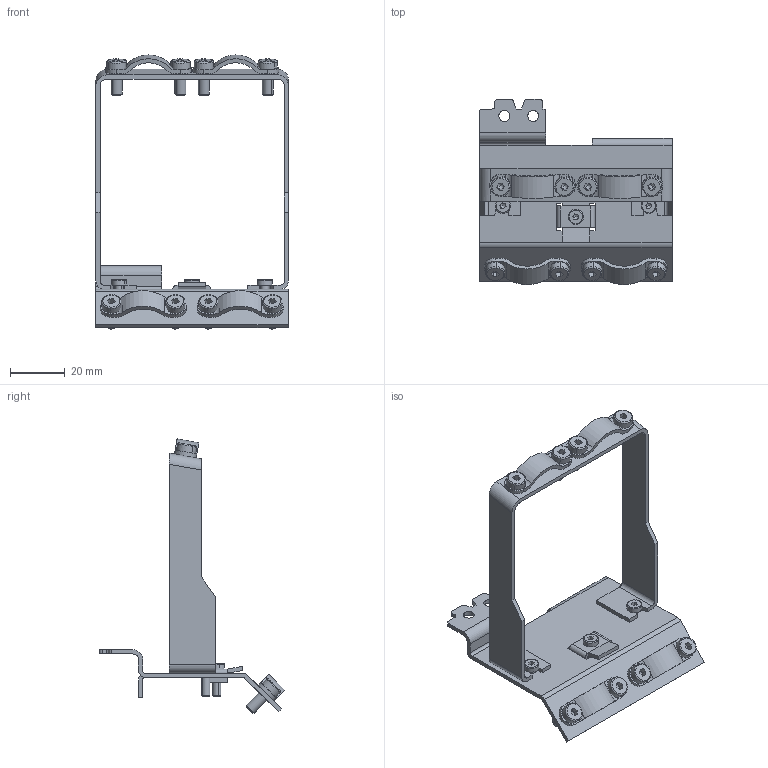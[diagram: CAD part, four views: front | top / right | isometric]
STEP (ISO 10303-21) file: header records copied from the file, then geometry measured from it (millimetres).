
FILE_DESCRIPTION (( 'STEP AP214' ), '1' );
FILE_NAME ('3D 斁麧錪 珅1-1_2.STEP', '2016-05-19T14:03:10', ( '' ), ( '' ), 'SwSTEP 2.0', 'SolidWorks 2014', '' );
FILE_SCHEMA (( 'AUTOMOTIVE_DESIGN' ));
Length unit declared in the file: millimetre
Products named in the file (7): socket head thin cap screw_din_DIN 7984 - M4 x 10 --- 7.9N; socket head thin cap screw_din_DIN 7984 - M3 x 10 --- 8.5N; ÏÊ1_çàæèì; ÏÊ1_çàæèì 2; 珅1-1_2-2; 珅1-1_2-1; 3D 斁麧錪 珅1-1_2
Assembly tree (18 placements, depth 2):
  3D 斁麧錪 珅1-1_2
    珅1-1_2-1
    珅1-1_2-2
    ÏÊ1_çàæèì 2
    ÏÊ1_çàæèì  x4
    socket head thin cap screw_din_DIN 7984 - M3 x 10 --- 8.5N  x3
    socket head thin cap screw_din_DIN 7984 - M4 x 10 --- 7.9N  x8
Bounding box: 70.12 x 67.34 x 99.67 mm (x, y, z)
Volume: 15309.9 mm3; surface area: 22732.4 mm2
Topology: 18 solids, 18 shells, 498 faces, 1239 edges, 761 vertices
Faces by surface type: plane 263, cylinder 147, cone 44, torus 44
Entity records: 6715 total; most frequent: CARTESIAN_POINT 1159, DIRECTION 1143, ORIENTED_EDGE 1066, EDGE_CURVE 533, AXIS2_PLACEMENT_3D 400, VERTEX_POINT 344, LINE 343, VECTOR 343
